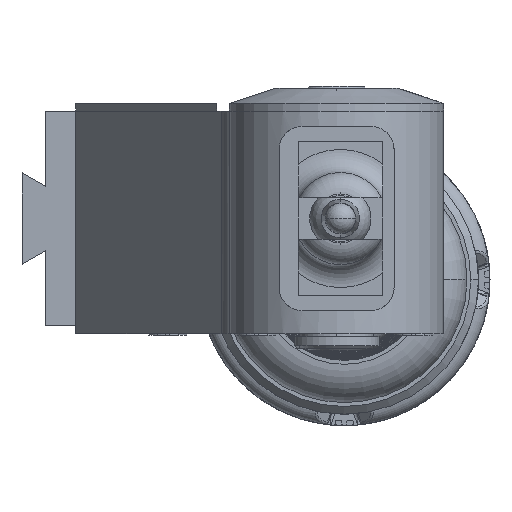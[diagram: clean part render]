
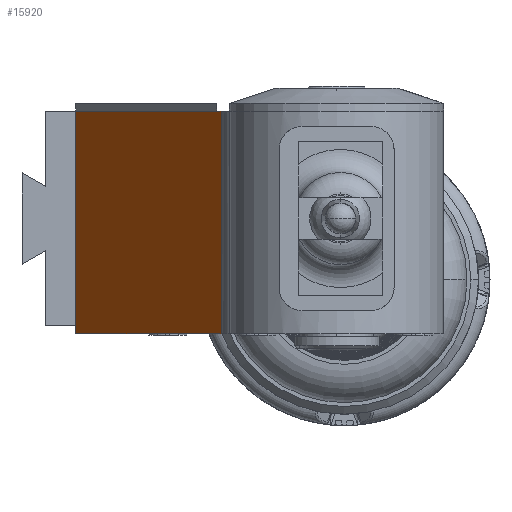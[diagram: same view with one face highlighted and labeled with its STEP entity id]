
A CAD part, left-side view. The second image highlights one B-rep face of the part: STEP entity #15920.
In plain terms, the highlighted planar face has unit normal (-0.568, 0.823, 0).
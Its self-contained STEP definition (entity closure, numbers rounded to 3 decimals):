
#15370=CARTESIAN_POINT('',(10.,7.,0.));
#15380=DIRECTION('',(-0.568,0.823,0.));
#15390=DIRECTION('',(0.823,0.568,0.));
#15400=AXIS2_PLACEMENT_3D('',#15370,#15380,#15390);
#15410=PLANE('',#15400);
#15420=CARTESIAN_POINT('',(24.5,17.,0.));
#15430=DIRECTION('',(-0.823,-0.568,0.));
#15440=VECTOR('',#15430,1.);
#15450=LINE('',#15420,#15440);
#15460=CARTESIAN_POINT('',(11.45,8.,0.));
#15470=VERTEX_POINT('',#15460);
#15480=CARTESIAN_POINT('',(10.769,7.53,0.));
#15490=VERTEX_POINT('',#15480);
#15500=EDGE_CURVE('',#15470,#15490,#15450,.T.);
#15510=ORIENTED_EDGE('',*,*,#15500,.T.);
#15520=CARTESIAN_POINT('',(45.243,31.305,0.));
#15530=DIRECTION('',(-0.823,-0.568,0.));
#15540=VECTOR('',#15530,1.);
#15550=LINE('',#15520,#15540);
#15560=CARTESIAN_POINT('',(11.668,8.15,0.));
#15570=VERTEX_POINT('',#15560);
#15580=EDGE_CURVE('',#15570,#15470,#15550,.T.);
#15590=ORIENTED_EDGE('',*,*,#15580,.T.);
#15600=CARTESIAN_POINT('',(24.5,17.,0.));
#15610=VERTEX_POINT('',#15600);
#15620=EDGE_CURVE('',#15610,#15570,#15450,.T.);
#15630=ORIENTED_EDGE('',*,*,#15620,.T.);
#15640=CARTESIAN_POINT('',(24.5,17.,0.));
#15650=DIRECTION('',(0.,0.,1.));
#15660=VECTOR('',#15650,1.);
#15670=LINE('',#15640,#15660);
#15680=CARTESIAN_POINT('',(24.5,17.,14.5));
#15690=VERTEX_POINT('',#15680);
#15700=EDGE_CURVE('',#15610,#15690,#15670,.T.);
#15710=ORIENTED_EDGE('',*,*,#15700,.F.);
#15720=CARTESIAN_POINT('',(15.17,10.565,14.5));
#15730=DIRECTION('',(0.823,0.568,0.));
#15740=VECTOR('',#15730,1.);
#15750=LINE('',#15720,#15740);
#15760=CARTESIAN_POINT('',(11.16,7.8,14.5));
#15770=VERTEX_POINT('',#15760);
#15780=EDGE_CURVE('',#15770,#15690,#15750,.T.);
#15790=ORIENTED_EDGE('',*,*,#15780,.T.);
#15800=CARTESIAN_POINT('',(10.769,7.53,14.5));
#15810=VERTEX_POINT('',#15800);
#15820=EDGE_CURVE('',#15810,#15770,#15750,.T.);
#15830=ORIENTED_EDGE('',*,*,#15820,.T.);
#15840=CARTESIAN_POINT('',(10.769,7.53,0.));
#15850=DIRECTION('',(0.,0.,1.));
#15860=VECTOR('',#15850,1.);
#15870=LINE('',#15840,#15860);
#15880=EDGE_CURVE('',#15490,#15810,#15870,.T.);
#15890=ORIENTED_EDGE('',*,*,#15880,.T.);
#15900=EDGE_LOOP('',(#15890,#15830,#15790,#15710,#15630,#15590,#15510));
#15910=FACE_OUTER_BOUND('',#15900,.T.);
#15920=ADVANCED_FACE('',(#15910),#15410,.T.);
